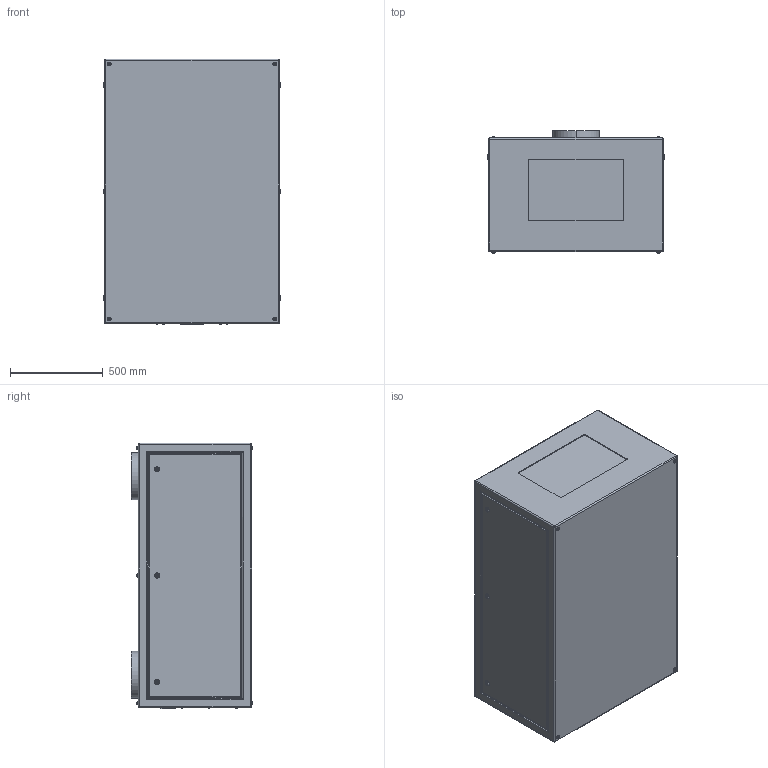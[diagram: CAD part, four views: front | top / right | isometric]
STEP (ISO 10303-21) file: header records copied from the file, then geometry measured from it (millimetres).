
FILE_DESCRIPTION (( 'STEP AP214' ), '1' );
FILE_NAME ('Tacit 56.322.L R08.STEP', '2022-09-11T22:39:39', ( '' ), ( '' ), 'SwSTEP 2.0', 'SolidWorks 2020', '' );
FILE_SCHEMA (( 'AUTOMOTIVE_DESIGN' ));
Length unit declared in the file: inch
Products named in the file (1): Tacit 56.322.L R08
Bounding box: 952.5 x 654.95 x 1427.48 mm (x, y, z)
Volume: 813302605.2 mm3; surface area: 5913136.7 mm2
Topology: 1 solids, 7 shells, 401 faces, 892 edges, 560 vertices
Faces by surface type: plane 177, cylinder 168, torus 48, sphere 8
Entity records: 15011 total; most frequent: CARTESIAN_POINT 2382, DIRECTION 1972, ORIENTED_EDGE 1768, EDGE_CURVE 884, AXIS2_PLACEMENT_3D 782, VERTEX_POINT 560, EDGE_LOOP 464, VECTOR 408
